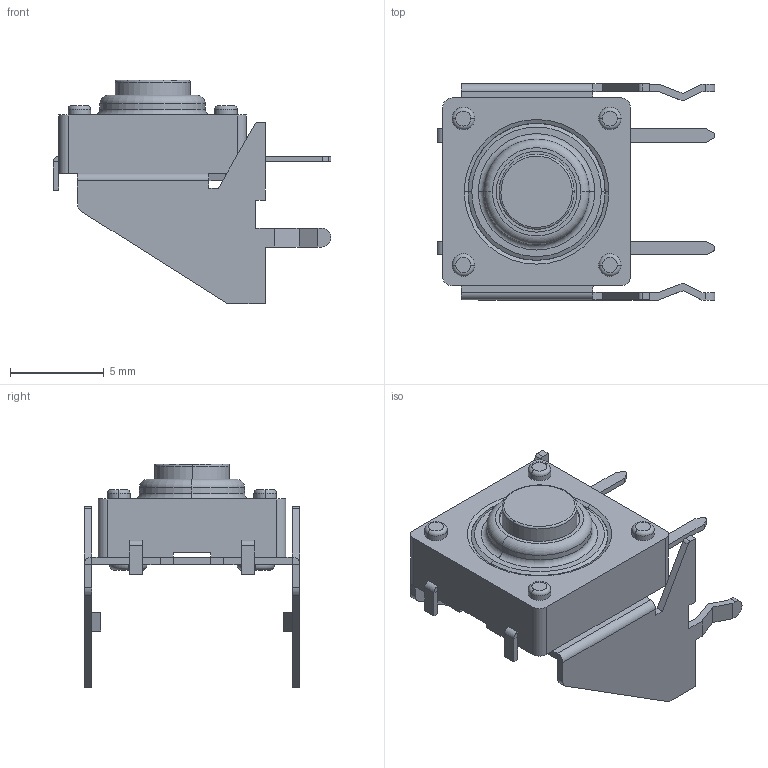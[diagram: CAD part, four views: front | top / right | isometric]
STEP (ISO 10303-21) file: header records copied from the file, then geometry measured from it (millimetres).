
FILE_DESCRIPTION (( 'STEP AP214' ), '1' );
FILE_NAME ('SKQBLB.STEP', '2014-04-17T07:26:58', ( '' ), ( '' ), 'SwSTEP 2.0', 'SolidWorks 2012', '' );
FILE_SCHEMA (( 'AUTOMOTIVE_DESIGN' ));
Length unit declared in the file: millimetre
Products named in the file (1): SKQBLB
Bounding box: 14.8 x 11.5 x 11.9 mm (x, y, z)
Volume: 418.8 mm3; surface area: 739.4 mm2
Topology: 1 solids, 1 shells, 184 faces, 454 edges, 284 vertices
Faces by surface type: plane 118, cylinder 36, torus 26, cone 4
Entity records: 7138 total; most frequent: DIRECTION 958, CARTESIAN_POINT 923, ORIENTED_EDGE 908, EDGE_CURVE 454, LINE 320, VECTOR 320, AXIS2_PLACEMENT_3D 319, VERTEX_POINT 284
